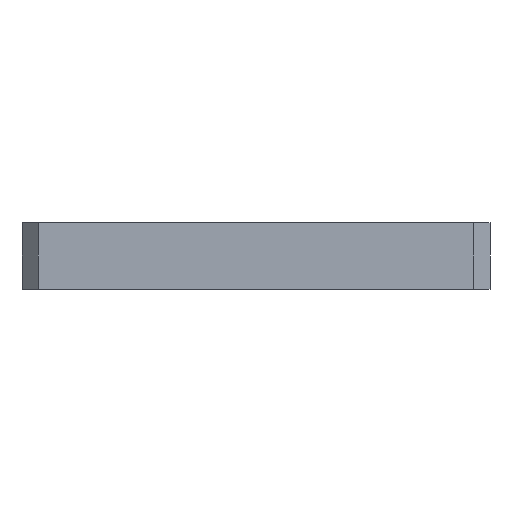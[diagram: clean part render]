
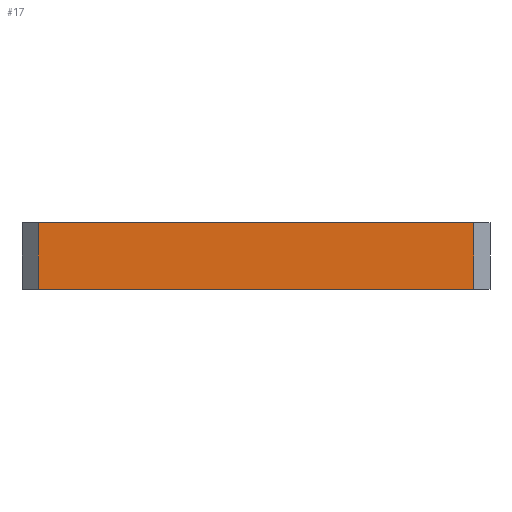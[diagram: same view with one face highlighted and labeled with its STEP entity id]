
A CAD part, front view. The second image highlights one B-rep face of the part: STEP entity #17.
In plain terms, the highlighted planar face has unit normal (0, -1, 0).
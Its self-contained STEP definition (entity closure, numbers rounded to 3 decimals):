
#17 = ADVANCED_FACE('',(#18),#32,.F.);
#18 = FACE_BOUND('',#19,.F.);
#19 = EDGE_LOOP('',(#20,#55,#83,#111));
#20 = ORIENTED_EDGE('',*,*,#21,.T.);
#21 = EDGE_CURVE('',#22,#24,#26,.T.);
#22 = VERTEX_POINT('',#23);
#23 = CARTESIAN_POINT('',(-54.,-43.,-10.1));
#24 = VERTEX_POINT('',#25);
#25 = CARTESIAN_POINT('',(-54.,-43.,6.4));
#26 = SURFACE_CURVE('',#27,(#31,#43),.PCURVE_S1.);
#27 = LINE('',#28,#29);
#28 = CARTESIAN_POINT('',(-54.,-43.,-10.1));
#29 = VECTOR('',#30,1.);
#30 = DIRECTION('',(0.,0.,1.));
#31 = PCURVE('',#32,#37);
#32 = PLANE('',#33);
#33 = AXIS2_PLACEMENT_3D('',#34,#35,#36);
#34 = CARTESIAN_POINT('',(-54.,-43.,-10.1));
#35 = DIRECTION('',(0.,1.,0.));
#36 = DIRECTION('',(1.,0.,0.));
#37 = DEFINITIONAL_REPRESENTATION('',(#38),#42);
#38 = LINE('',#39,#40);
#39 = CARTESIAN_POINT('',(0.,0.));
#40 = VECTOR('',#41,1.);
#41 = DIRECTION('',(0.,-1.));
#42 = ( GEOMETRIC_REPRESENTATION_CONTEXT(2) 
PARAMETRIC_REPRESENTATION_CONTEXT() REPRESENTATION_CONTEXT('2D SPACE',''
  ) );
#43 = PCURVE('',#44,#49);
#44 = PLANE('',#45);
#45 = AXIS2_PLACEMENT_3D('',#46,#47,#48);
#46 = CARTESIAN_POINT('',(-58.,-39.,-10.1));
#47 = DIRECTION('',(0.707,0.707,-0.));
#48 = DIRECTION('',(0.707,-0.707,0.));
#49 = DEFINITIONAL_REPRESENTATION('',(#50),#54);
#50 = LINE('',#51,#52);
#51 = CARTESIAN_POINT('',(5.657,0.));
#52 = VECTOR('',#53,1.);
#53 = DIRECTION('',(0.,-1.));
#54 = ( GEOMETRIC_REPRESENTATION_CONTEXT(2) 
PARAMETRIC_REPRESENTATION_CONTEXT() REPRESENTATION_CONTEXT('2D SPACE',''
  ) );
#55 = ORIENTED_EDGE('',*,*,#56,.T.);
#56 = EDGE_CURVE('',#24,#57,#59,.T.);
#57 = VERTEX_POINT('',#58);
#58 = CARTESIAN_POINT('',(54.,-43.,6.4));
#59 = SURFACE_CURVE('',#60,(#64,#71),.PCURVE_S1.);
#60 = LINE('',#61,#62);
#61 = CARTESIAN_POINT('',(-54.,-43.,6.4));
#62 = VECTOR('',#63,1.);
#63 = DIRECTION('',(1.,0.,0.));
#64 = PCURVE('',#32,#65);
#65 = DEFINITIONAL_REPRESENTATION('',(#66),#70);
#66 = LINE('',#67,#68);
#67 = CARTESIAN_POINT('',(0.,-16.5));
#68 = VECTOR('',#69,1.);
#69 = DIRECTION('',(1.,0.));
#70 = ( GEOMETRIC_REPRESENTATION_CONTEXT(2) 
PARAMETRIC_REPRESENTATION_CONTEXT() REPRESENTATION_CONTEXT('2D SPACE',''
  ) );
#71 = PCURVE('',#72,#77);
#72 = PLANE('',#73);
#73 = AXIS2_PLACEMENT_3D('',#74,#75,#76);
#74 = CARTESIAN_POINT('',(0.956,-1.253,6.4));
#75 = DIRECTION('',(0.,0.,1.));
#76 = DIRECTION('',(1.,0.,0.));
#77 = DEFINITIONAL_REPRESENTATION('',(#78),#82);
#78 = LINE('',#79,#80);
#79 = CARTESIAN_POINT('',(-54.956,-41.747));
#80 = VECTOR('',#81,1.);
#81 = DIRECTION('',(1.,0.));
#82 = ( GEOMETRIC_REPRESENTATION_CONTEXT(2) 
PARAMETRIC_REPRESENTATION_CONTEXT() REPRESENTATION_CONTEXT('2D SPACE',''
  ) );
#83 = ORIENTED_EDGE('',*,*,#84,.F.);
#84 = EDGE_CURVE('',#85,#57,#87,.T.);
#85 = VERTEX_POINT('',#86);
#86 = CARTESIAN_POINT('',(54.,-43.,-10.1));
#87 = SURFACE_CURVE('',#88,(#92,#99),.PCURVE_S1.);
#88 = LINE('',#89,#90);
#89 = CARTESIAN_POINT('',(54.,-43.,-10.1));
#90 = VECTOR('',#91,1.);
#91 = DIRECTION('',(0.,0.,1.));
#92 = PCURVE('',#32,#93);
#93 = DEFINITIONAL_REPRESENTATION('',(#94),#98);
#94 = LINE('',#95,#96);
#95 = CARTESIAN_POINT('',(108.,0.));
#96 = VECTOR('',#97,1.);
#97 = DIRECTION('',(0.,-1.));
#98 = ( GEOMETRIC_REPRESENTATION_CONTEXT(2) 
PARAMETRIC_REPRESENTATION_CONTEXT() REPRESENTATION_CONTEXT('2D SPACE',''
  ) );
#99 = PCURVE('',#100,#105);
#100 = PLANE('',#101);
#101 = AXIS2_PLACEMENT_3D('',#102,#103,#104);
#102 = CARTESIAN_POINT('',(54.,-43.,-10.1));
#103 = DIRECTION('',(-0.707,0.707,0.));
#104 = DIRECTION('',(0.707,0.707,0.));
#105 = DEFINITIONAL_REPRESENTATION('',(#106),#110);
#106 = LINE('',#107,#108);
#107 = CARTESIAN_POINT('',(0.,0.));
#108 = VECTOR('',#109,1.);
#109 = DIRECTION('',(0.,-1.));
#110 = ( GEOMETRIC_REPRESENTATION_CONTEXT(2) 
PARAMETRIC_REPRESENTATION_CONTEXT() REPRESENTATION_CONTEXT('2D SPACE',''
  ) );
#111 = ORIENTED_EDGE('',*,*,#112,.F.);
#112 = EDGE_CURVE('',#22,#85,#113,.T.);
#113 = SURFACE_CURVE('',#114,(#118,#125),.PCURVE_S1.);
#114 = LINE('',#115,#116);
#115 = CARTESIAN_POINT('',(-54.,-43.,-10.1));
#116 = VECTOR('',#117,1.);
#117 = DIRECTION('',(1.,0.,0.));
#118 = PCURVE('',#32,#119);
#119 = DEFINITIONAL_REPRESENTATION('',(#120),#124);
#120 = LINE('',#121,#122);
#121 = CARTESIAN_POINT('',(0.,0.));
#122 = VECTOR('',#123,1.);
#123 = DIRECTION('',(1.,0.));
#124 = ( GEOMETRIC_REPRESENTATION_CONTEXT(2) 
PARAMETRIC_REPRESENTATION_CONTEXT() REPRESENTATION_CONTEXT('2D SPACE',''
  ) );
#125 = PCURVE('',#126,#131);
#126 = PLANE('',#127);
#127 = AXIS2_PLACEMENT_3D('',#128,#129,#130);
#128 = CARTESIAN_POINT('',(0.956,-1.253,-10.1));
#129 = DIRECTION('',(0.,0.,1.));
#130 = DIRECTION('',(1.,0.,0.));
#131 = DEFINITIONAL_REPRESENTATION('',(#132),#136);
#132 = LINE('',#133,#134);
#133 = CARTESIAN_POINT('',(-54.956,-41.747));
#134 = VECTOR('',#135,1.);
#135 = DIRECTION('',(1.,0.));
#136 = ( GEOMETRIC_REPRESENTATION_CONTEXT(2) 
PARAMETRIC_REPRESENTATION_CONTEXT() REPRESENTATION_CONTEXT('2D SPACE',''
  ) );
